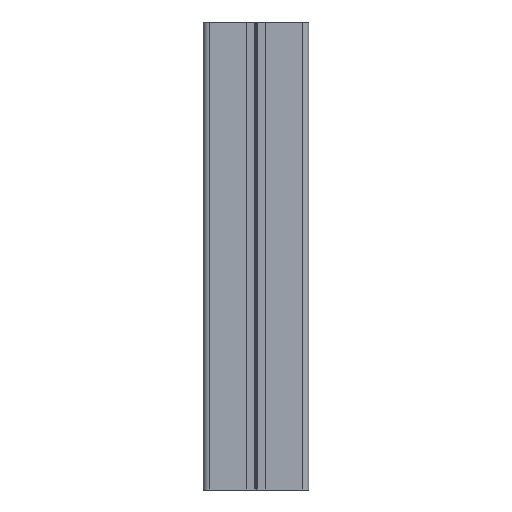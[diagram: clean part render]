
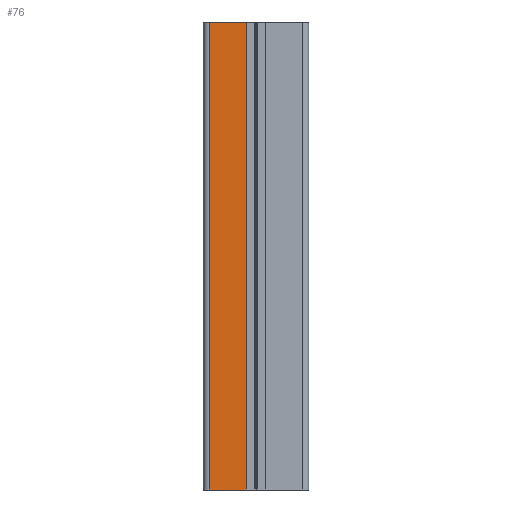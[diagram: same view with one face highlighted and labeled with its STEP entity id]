
A CAD part, left-side view. The second image highlights one B-rep face of the part: STEP entity #76.
In plain terms, the highlighted planar face has unit normal (-1, 0, 0).
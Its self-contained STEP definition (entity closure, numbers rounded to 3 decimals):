
#73 = DIRECTION ( 'NONE',  ( 0., 0., -1. ) ) ;
#76 = ADVANCED_FACE ( 'NONE', ( #754 ), #1585, .F. ) ;
#100 = AXIS2_PLACEMENT_3D ( 'NONE', #1495, #1591, #1596 ) ;
#225 = VECTOR ( 'NONE', #1572, 1000. ) ;
#229 = LINE ( 'NONE', #1976, #225 ) ;
#237 = CARTESIAN_POINT ( 'NONE',  ( -22.5, 20., 200. ) ) ;
#333 = CARTESIAN_POINT ( 'NONE',  ( -22.5, 4.1, 200. ) ) ;
#359 = EDGE_CURVE ( 'NONE', #1916, #3406, #229, .T. ) ;
#531 = EDGE_CURVE ( 'NONE', #2487, #1916, #3661, .T. ) ;
#557 = EDGE_CURVE ( 'NONE', #1182, #3406, #3572, .T. ) ;
#562 = CARTESIAN_POINT ( 'NONE',  ( -22.5, 4.1, 200. ) ) ;
#726 = CARTESIAN_POINT ( 'NONE',  ( -22.5, 20., 0. ) ) ;
#754 = FACE_OUTER_BOUND ( 'NONE', #2697, .T. ) ;
#962 = EDGE_CURVE ( 'NONE', #2487, #1182, #2679, .T. ) ;
#1182 = VERTEX_POINT ( 'NONE', #562 ) ;
#1430 = CARTESIAN_POINT ( 'NONE',  ( -22.5, 20., 200. ) ) ;
#1495 = CARTESIAN_POINT ( 'NONE',  ( -22.5, 20., 200. ) ) ;
#1513 = DIRECTION ( 'NONE',  ( 0., -1., 0. ) ) ;
#1572 = DIRECTION ( 'NONE',  ( 0., -1., 0. ) ) ;
#1585 = PLANE ( 'NONE',  #100 ) ;
#1591 = DIRECTION ( 'NONE',  ( 1., 0., 0. ) ) ;
#1596 = DIRECTION ( 'NONE',  ( 0., 0., -1. ) ) ;
#1916 = VERTEX_POINT ( 'NONE', #726 ) ;
#1976 = CARTESIAN_POINT ( 'NONE',  ( -22.5, 20., 0. ) ) ;
#2155 = ORIENTED_EDGE ( 'NONE', *, *, #531, .T. ) ;
#2207 = ORIENTED_EDGE ( 'NONE', *, *, #962, .F. ) ;
#2285 = CARTESIAN_POINT ( 'NONE',  ( -22.5, 4.1, 0. ) ) ;
#2307 = ORIENTED_EDGE ( 'NONE', *, *, #359, .T. ) ;
#2487 = VERTEX_POINT ( 'NONE', #237 ) ;
#2630 = VECTOR ( 'NONE', #1513, 1000. ) ;
#2679 = LINE ( 'NONE', #1430, #2630 ) ;
#2697 = EDGE_LOOP ( 'NONE', ( #2307, #3680, #2207, #2155 ) ) ;
#3406 = VERTEX_POINT ( 'NONE', #2285 ) ;
#3432 = DIRECTION ( 'NONE',  ( 0., 0., -1. ) ) ;
#3509 = CARTESIAN_POINT ( 'NONE',  ( -22.5, 20., 200. ) ) ;
#3572 = LINE ( 'NONE', #333, #3580 ) ;
#3580 = VECTOR ( 'NONE', #73, 1000. ) ;
#3628 = VECTOR ( 'NONE', #3432, 1000. ) ;
#3661 = LINE ( 'NONE', #3509, #3628 ) ;
#3680 = ORIENTED_EDGE ( 'NONE', *, *, #557, .F. ) ;
